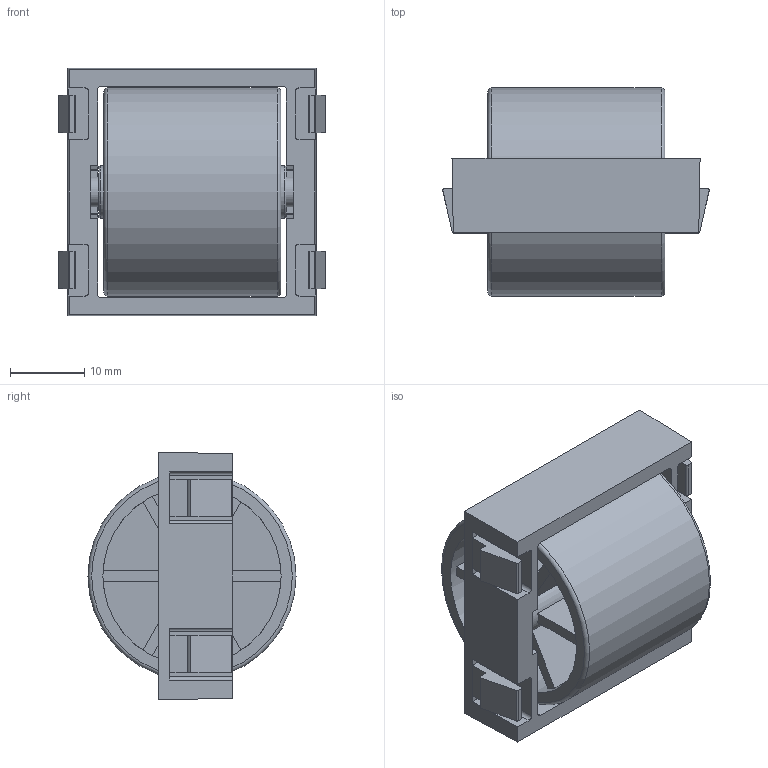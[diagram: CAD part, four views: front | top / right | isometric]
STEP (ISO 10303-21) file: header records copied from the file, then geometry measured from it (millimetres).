
FILE_DESCRIPTION(/* description */ ('STEP AP214'),/* implementation_level */ '2;1');
FILE_NAME(/* name */ '062AER2891ESD.33',/* time_stamp */ '2023-08-11T16:47:02+02:00',/* author */ ('License CC BY-ND 4.0'),/* organization */ ('CADENAS'),/* preprocessor_version */ 'ST-DEVELOPER v19.3',/* originating_system */ 'PARTsolutions',/* authorisation */ ' ');
FILE_SCHEMA (('AUTOMOTIVE_DESIGN {1 0 10303 214 3 1 1}'));
Length unit declared in the file: millimetre
Products named in the file (4): 062AER2891ESD.33; 062AER2891ESD.33-3; 062AER2891ESD.33-2; 062AER2891ESD.33-1
Assembly tree (3 placements, depth 2):
  062AER2891ESD.33
    062AER2891ESD.33-3
    062AER2891ESD.33-2
    062AER2891ESD.33-1
Bounding box: 35.85 x 28 x 33.3 mm (x, y, z)
Volume: 9970.5 mm3; surface area: 11915.7 mm2
Topology: 3 solids, 3 shells, 197 faces, 545 edges, 356 vertices
Faces by surface type: plane 142, cylinder 49, torus 4, cone 2
Full cylindrical faces by diameter (mm): 4 x1, 4.2 x1, 7 x2, 24 x2, 28 x1
Entity records: 6280 total; most frequent: CARTESIAN_POINT 1081, DIRECTION 1078, ORIENTED_EDGE 1056, EDGE_CURVE 528, LINE 380, VECTOR 380, VERTEX_POINT 352, AXIS2_PLACEMENT_3D 349
